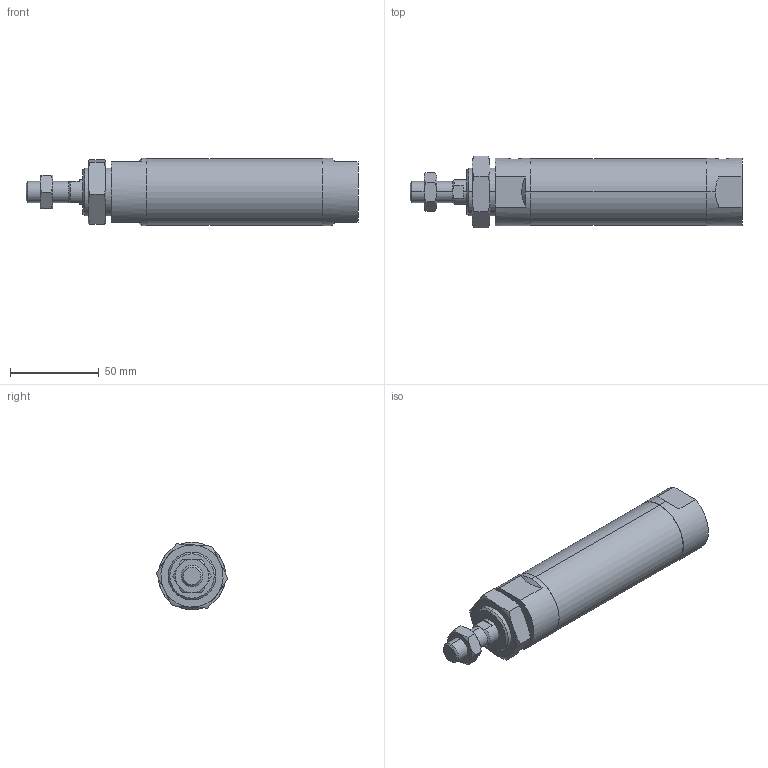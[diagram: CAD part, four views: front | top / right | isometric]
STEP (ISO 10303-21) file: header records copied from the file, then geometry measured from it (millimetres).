
FILE_DESCRIPTION (( 'STEP AP203' ), '1' );
FILE_NAME ('JGND2-32-50-N.STEP', '2016-08-04T02:48:40', ( '' ), ( '' ), 'SwSTEP 2.0', 'SolidWorks 2014', '' );
FILE_SCHEMA (( 'CONFIG_CONTROL_DESIGN' ));
Length unit declared in the file: millimetre
Products named in the file (4): JGND2-32-50-N; J#2-32-50(P)
Assembly tree (3 placements, depth 2):
  JGND2-32-50-N
    J#2-32-50(P)
    (unnamed)
    (unnamed)
Bounding box: 187 x 40.33 x 38 mm (x, y, z)
Volume: 171299.6 mm3; surface area: 26622.2 mm2
Topology: 3 solids, 3 shells, 89 faces, 200 edges, 119 vertices
Faces by surface type: plane 32, torus 24, cylinder 20, cone 13
Entity records: 3321 total; most frequent: CARTESIAN_POINT 1017, DIRECTION 395, ORIENTED_EDGE 392, EDGE_CURVE 196, AXIS2_PLACEMENT_3D 167, VERTEX_POINT 119, EDGE_LOOP 99, FACE_OUTER_BOUND 89
